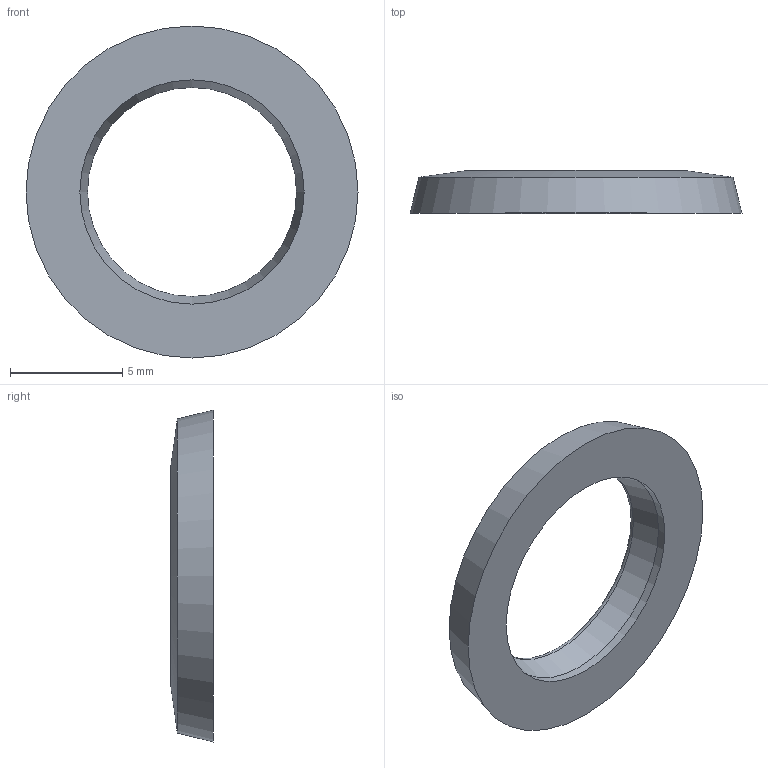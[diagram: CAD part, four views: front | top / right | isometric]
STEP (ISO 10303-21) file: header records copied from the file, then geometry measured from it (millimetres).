
FILE_DESCRIPTION( ( 'STEP AP203' ), '1' );
FILE_NAME( 'C:/Temp/Ganter_Step_05_03_2020/data/3_5/gn7600/Sealing ring GN 7600-14-10-2-EPDM-85.stp', '2020-03-12T13:43:53', ( 'License CC BY-ND 4.0' ), ( 'CADENAS' ), ' ', 'PARTsolutions', ' ' );
FILE_SCHEMA( ( 'CONFIG_CONTROL_DESIGN' ) );
Length unit declared in the file: millimetre
Products named in the file (1): _Sealing ring GN 7600-14-10-2-EPDM-85
Bounding box: 14.8 x 1.9 x 14.8 mm (x, y, z)
Volume: 153.7 mm3; surface area: 311.3 mm2
Topology: 1 solids, 1 shells, 6 faces, 11 edges, 6 vertices
Faces by surface type: cone 3, torus 1, cylinder 1, plane 1
Full cylindrical faces by diameter (mm): 10 x1
Entity records: 172 total; most frequent: DIRECTION 26, CARTESIAN_POINT 19, AXIS2_PLACEMENT_3D 13, EDGE_LOOP 12, ORIENTED_EDGE 12, FACE_OUTER_BOUND 8, ADVANCED_FACE 6, EDGE_CURVE 6
